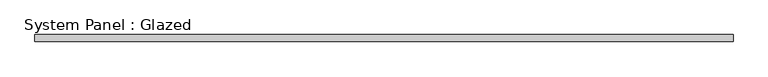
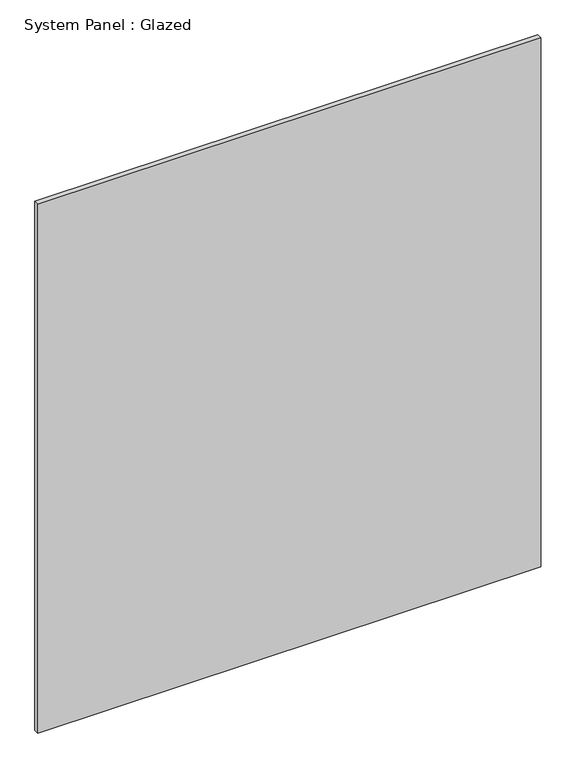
"""IFC4 building model written with IfcOpenShell, lengths in millimetres: plate geometry, System Panel : Glazed."""

from ifc_helpers import new_model, si_unit, origin, origin_with_axes, place, context, project, spatial, polyline, outline, extrude, source, transform, mapped, element, save


def system_panel_glazed_c925beaf(model_context):
    return source(origin(), model_context, "Body", "SweptSolid", [
        extrude(outline(polyline([(1237.5, 24.5), (-1237.5, 24.5), (-1237.5, 49.5), (1237.5, 49.5), (1237.5, 24.5)])), origin_with_axes(), (0.0, 0.0, 1.0), 2750.0),
    ])


if __name__ == "__main__":
    model = new_model("IFC4")
    model_context = context("Model", 3, world=origin())
    ifc_project = project(units=[si_unit("LENGTHUNIT", "METRE", prefix="MILLI")], contexts=[model_context])
    site = spatial("IfcSite", under=ifc_project)
    building = spatial("IfcBuilding", under=site)
    placement = place(None, origin())
    system_panel_glazed_shape = system_panel_glazed_c925beaf(model_context)
    element("IfcPlate", 1, ObjectType="System Panel : Glazed", at=placement, inside=building, context=model_context, shape_type="MappedRepresentation", body=[
        mapped(system_panel_glazed_shape, transform((0.0, 0.0, 0.0), x_axis=(1.0, 0.0, 0.0), y_axis=(0.0, 1.0, 0.0), z_axis=(0.0, 0.0, 1.0))),
    ])
    save(model, "model.ifc")
